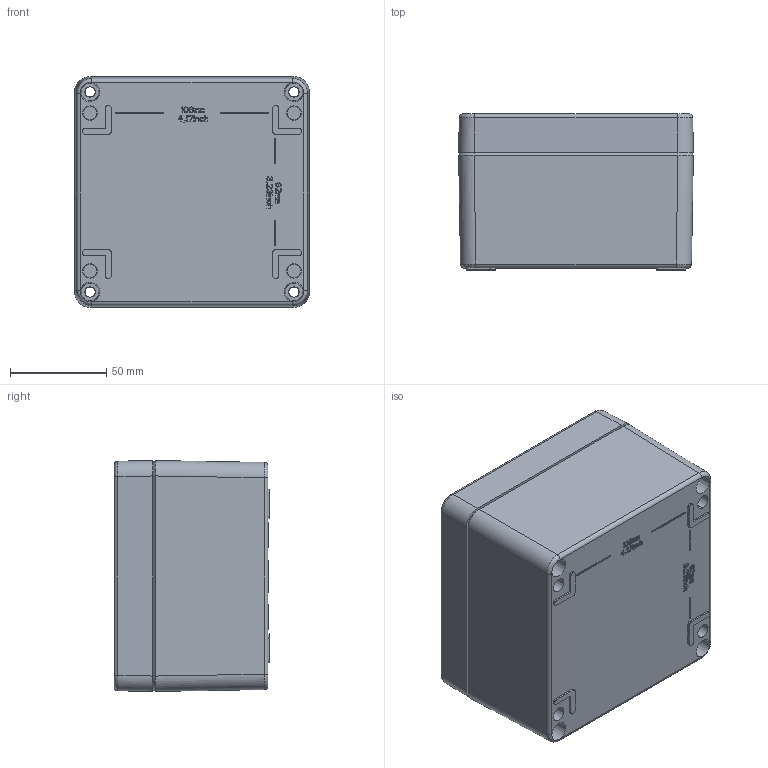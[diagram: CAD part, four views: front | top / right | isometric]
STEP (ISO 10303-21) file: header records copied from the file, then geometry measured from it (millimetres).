
FILE_DESCRIPTION (( 'STEP AP203' ), '1' );
FILE_NAME ('BB051.STEP', '2024-12-28T13:16:51', ( '' ), ( '' ), 'SwSTEP 2.0', 'SolidWorks 2019', '' );
FILE_SCHEMA (( 'CONFIG_CONTROL_DESIGN' ));
Length unit declared in the file: millimetre
Products named in the file (3): BASE_120_122_91 -2024; BB051; LID_120_122_81
Assembly tree (2 placements, depth 2):
  BB051
    BASE_120_122_91 -2024
    LID_120_122_81
Bounding box: 122 x 81 x 120 mm (x, y, z)
Volume: 326460 mm3; surface area: 143999.6 mm2
Topology: 2 solids, 2 shells, 1394 faces, 3708 edges, 2399 vertices
Faces by surface type: plane 945, cylinder 174, cone 141, bspline 134
Entity records: 53010 total; most frequent: CARTESIAN_POINT 19393, ORIENTED_EDGE 7400, DIRECTION 6040, EDGE_CURVE 3700, VECTOR 2822, LINE 2822, VERTEX_POINT 2399, AXIS2_PLACEMENT_3D 1609
